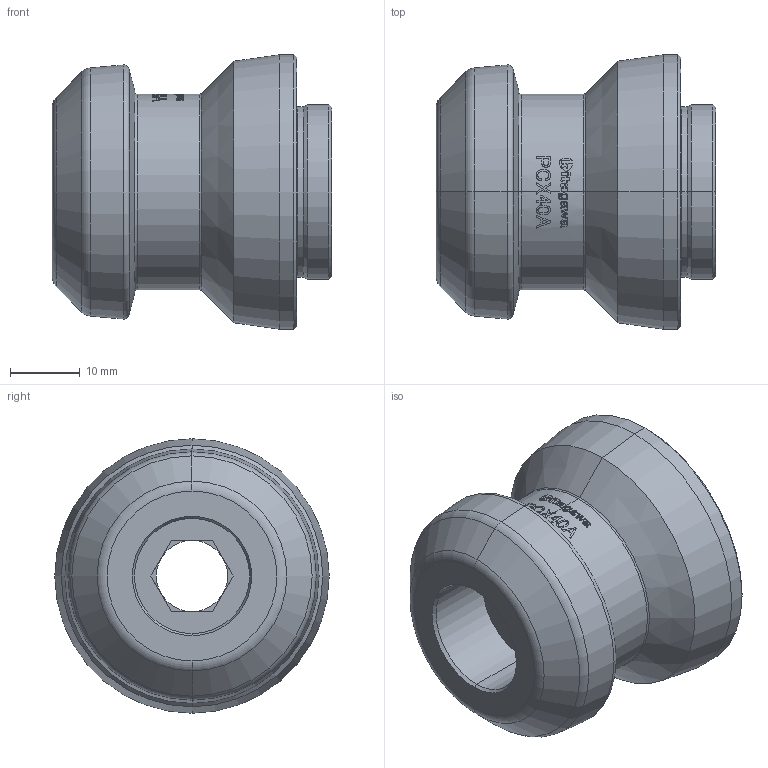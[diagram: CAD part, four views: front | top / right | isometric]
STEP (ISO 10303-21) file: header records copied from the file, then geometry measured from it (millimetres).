
FILE_DESCRIPTION (( 'STEP AP203' ), '1' );
FILE_NAME ('61P293306.STEP', '2024-04-26T01:31:27', ( '' ), ( '' ), 'SwSTEP 2.0', 'SolidWorks 2022', '' );
FILE_SCHEMA (( 'CONFIG_CONTROL_DESIGN' ));
Length unit declared in the file: millimetre
Products named in the file (1): 61P293306
Bounding box: 40 x 39.3 x 39.3 mm (x, y, z)
Volume: 28555.5 mm3; surface area: 7785.5 mm2
Topology: 1 solids, 1 shells, 88 faces, 861 edges, 800 vertices
Faces by surface type: cylinder 37, cone 22, plane 17, torus 12
Entity records: 8818 total; most frequent: CARTESIAN_POINT 3737, ORIENTED_EDGE 1722, EDGE_CURVE 861, VERTEX_POINT 800, DIRECTION 574, AXIS2_PLACEMENT_3D 231, CIRCLE 142, EDGE_LOOP 115
